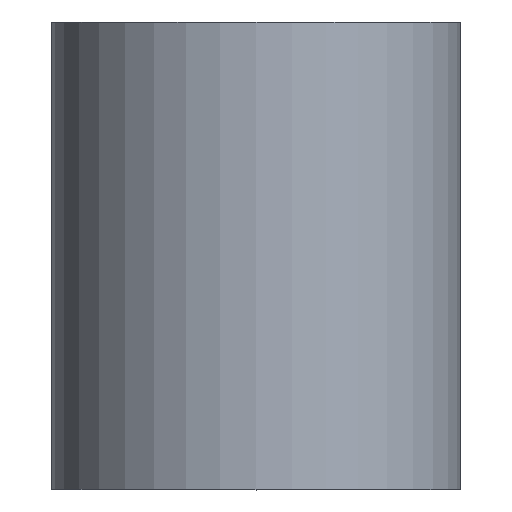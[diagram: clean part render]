
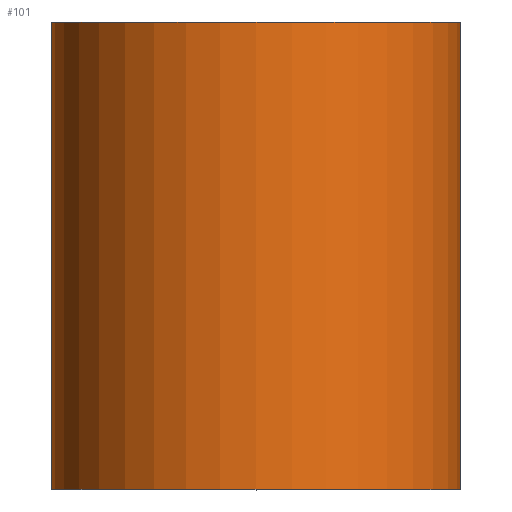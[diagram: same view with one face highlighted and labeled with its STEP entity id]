
A CAD part, top view. The second image highlights one B-rep face of the part: STEP entity #101.
In plain terms, the highlighted cylindrical face has radius 3.5 mm (diameter 7 mm), a partial arc.
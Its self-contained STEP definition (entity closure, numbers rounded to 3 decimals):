
#2 = LINE ( 'NONE', #119, #43 ) ;
#4 = EDGE_CURVE ( 'NONE', #16, #299, #9, .T. ) ;
#9 = CIRCLE ( 'NONE', #165, 3.5 ) ;
#16 = VERTEX_POINT ( 'NONE', #251 ) ;
#17 = DIRECTION ( 'NONE',  ( 0., 1., 0. ) ) ;
#19 = CARTESIAN_POINT ( 'NONE',  ( 0., 0., 0. ) ) ;
#38 = EDGE_CURVE ( 'NONE', #147, #204, #180, .T. ) ;
#43 = VECTOR ( 'NONE', #203, 1000. ) ;
#44 = DIRECTION ( 'NONE',  ( -1., 0., 0. ) ) ;
#50 = DIRECTION ( 'NONE',  ( 0., 1., 0. ) ) ;
#53 = DIRECTION ( 'NONE',  ( -1., 0., 0. ) ) ;
#54 = ORIENTED_EDGE ( 'NONE', *, *, #67, .F. ) ;
#67 = EDGE_CURVE ( 'NONE', #16, #147, #213, .T. ) ;
#85 = CARTESIAN_POINT ( 'NONE',  ( 3.5, 8., 0. ) ) ;
#90 = CARTESIAN_POINT ( 'NONE',  ( 0., 8., 0. ) ) ;
#95 = DIRECTION ( 'NONE',  ( 0., 1., 0. ) ) ;
#101 = ADVANCED_FACE ( 'NONE', ( #145 ), #250, .T. ) ;
#115 = CARTESIAN_POINT ( 'NONE',  ( -3.5, 8., 0. ) ) ;
#116 = DIRECTION ( 'NONE',  ( 0., 1., 0. ) ) ;
#119 = CARTESIAN_POINT ( 'NONE',  ( 3.5, 0., 0. ) ) ;
#120 = DIRECTION ( 'NONE',  ( -1., 0., 0. ) ) ;
#140 = EDGE_LOOP ( 'NONE', ( #220, #225, #219, #54 ) ) ;
#145 = FACE_OUTER_BOUND ( 'NONE', #140, .T. ) ;
#147 = VERTEX_POINT ( 'NONE', #115 ) ;
#156 = AXIS2_PLACEMENT_3D ( 'NONE', #19, #17, #53 ) ;
#163 = CARTESIAN_POINT ( 'NONE',  ( 0., 0., 0. ) ) ;
#165 = AXIS2_PLACEMENT_3D ( 'NONE', #163, #116, #44 ) ;
#180 = CIRCLE ( 'NONE', #199, 3.5 ) ;
#184 = CARTESIAN_POINT ( 'NONE',  ( 3.5, 0., 0. ) ) ;
#199 = AXIS2_PLACEMENT_3D ( 'NONE', #90, #50, #120 ) ;
#203 = DIRECTION ( 'NONE',  ( 0., 1., 0. ) ) ;
#204 = VERTEX_POINT ( 'NONE', #85 ) ;
#213 = LINE ( 'NONE', #257, #259 ) ;
#219 = ORIENTED_EDGE ( 'NONE', *, *, #38, .F. ) ;
#220 = ORIENTED_EDGE ( 'NONE', *, *, #4, .T. ) ;
#223 = EDGE_CURVE ( 'NONE', #299, #204, #2, .T. ) ;
#225 = ORIENTED_EDGE ( 'NONE', *, *, #223, .T. ) ;
#250 = CYLINDRICAL_SURFACE ( 'NONE', #156, 3.5 ) ;
#251 = CARTESIAN_POINT ( 'NONE',  ( -3.5, 0., 0. ) ) ;
#257 = CARTESIAN_POINT ( 'NONE',  ( -3.5, 0., 0. ) ) ;
#259 = VECTOR ( 'NONE', #95, 1000. ) ;
#299 = VERTEX_POINT ( 'NONE', #184 ) ;
